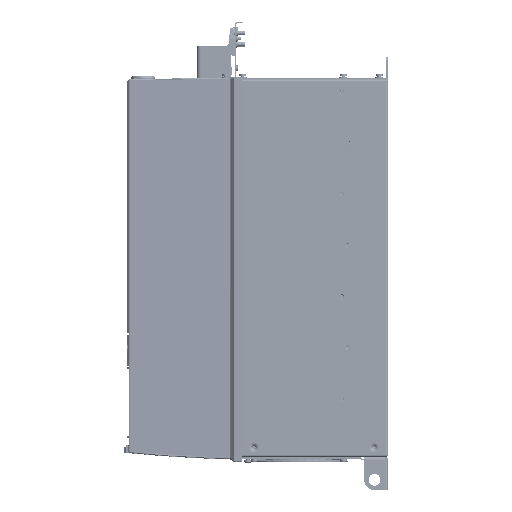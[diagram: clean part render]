
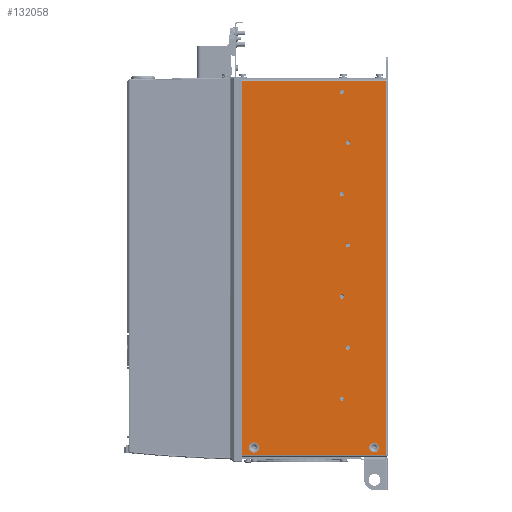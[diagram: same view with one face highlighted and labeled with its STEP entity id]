
A CAD part, left-side view. The second image highlights one B-rep face of the part: STEP entity #132058.
In plain terms, the highlighted planar face has unit normal (-1, 0, 0).
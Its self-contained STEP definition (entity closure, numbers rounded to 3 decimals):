
#23100=CARTESIAN_POINT('',(-153.5,170.,-228.));
#23101=DIRECTION('',(1.,0.,0.));
#23102=DIRECTION('',(0.,0.,-1.));
#23103=AXIS2_PLACEMENT_3D('',#23100,#23101,#23102);
#23105=CARTESIAN_POINT('',(-153.5,170.,-228.));
#23106=DIRECTION('',(1.,0.,0.));
#23107=DIRECTION('',(0.,0.,1.));
#23108=AXIS2_PLACEMENT_3D('',#23105,#23106,#23107);
#23110=CARTESIAN_POINT('',(-153.5,17.5,-228.));
#23111=DIRECTION('',(1.,0.,0.));
#23112=DIRECTION('',(0.,0.,-1.));
#23113=AXIS2_PLACEMENT_3D('',#23110,#23111,#23112);
#23115=CARTESIAN_POINT('',(-153.5,17.5,-228.));
#23116=DIRECTION('',(1.,0.,0.));
#23117=DIRECTION('',(0.,0.,1.));
#23118=AXIS2_PLACEMENT_3D('',#23115,#23116,#23117);
#23120=DIRECTION('',(0.,0.,-1.));
#23121=VECTOR('',#23120,475.);
#23122=CARTESIAN_POINT('',(-153.5,2.5,237.5));
#23123=LINE('',#23122,#23121);
#23124=DIRECTION('',(0.,1.,0.));
#23125=VECTOR('',#23124,187.5);
#23126=CARTESIAN_POINT('',(-153.5,2.5,-237.5));
#23127=LINE('',#23126,#23125);
#23128=DIRECTION('',(0.,0.,-1.));
#23129=VECTOR('',#23128,475.);
#23130=CARTESIAN_POINT('',(-153.5,190.,237.5));
#23131=LINE('',#23130,#23129);
#23132=DIRECTION('',(0.,-1.,0.));
#23133=VECTOR('',#23132,187.5);
#23134=CARTESIAN_POINT('',(-153.5,190.,237.5));
#23135=LINE('',#23134,#23133);
#23136=CARTESIAN_POINT('',(-153.5,58.5,224.));
#23137=DIRECTION('',(1.,0.,0.));
#23138=DIRECTION('',(0.,0.,-1.));
#23139=AXIS2_PLACEMENT_3D('',#23136,#23137,#23138);
#23141=CARTESIAN_POINT('',(-153.5,58.5,224.));
#23142=DIRECTION('',(1.,0.,0.));
#23143=DIRECTION('',(0.,0.,1.));
#23144=AXIS2_PLACEMENT_3D('',#23141,#23142,#23143);
#23146=CARTESIAN_POINT('',(-153.5,50.5,159.));
#23147=DIRECTION('',(1.,0.,0.));
#23148=DIRECTION('',(0.,0.,-1.));
#23149=AXIS2_PLACEMENT_3D('',#23146,#23147,#23148);
#23151=CARTESIAN_POINT('',(-153.5,50.5,159.));
#23152=DIRECTION('',(1.,0.,0.));
#23153=DIRECTION('',(0.,0.,1.));
#23154=AXIS2_PLACEMENT_3D('',#23151,#23152,#23153);
#23156=CARTESIAN_POINT('',(-153.5,58.5,94.));
#23157=DIRECTION('',(1.,0.,0.));
#23158=DIRECTION('',(0.,0.,-1.));
#23159=AXIS2_PLACEMENT_3D('',#23156,#23157,#23158);
#23161=CARTESIAN_POINT('',(-153.5,58.5,94.));
#23162=DIRECTION('',(1.,0.,0.));
#23163=DIRECTION('',(0.,0.,1.));
#23164=AXIS2_PLACEMENT_3D('',#23161,#23162,#23163);
#23166=CARTESIAN_POINT('',(-153.5,50.5,29.));
#23167=DIRECTION('',(1.,0.,0.));
#23168=DIRECTION('',(0.,0.,-1.));
#23169=AXIS2_PLACEMENT_3D('',#23166,#23167,#23168);
#23171=CARTESIAN_POINT('',(-153.5,50.5,29.));
#23172=DIRECTION('',(1.,0.,0.));
#23173=DIRECTION('',(0.,0.,1.));
#23174=AXIS2_PLACEMENT_3D('',#23171,#23172,#23173);
#23176=CARTESIAN_POINT('',(-153.5,58.5,-36.));
#23177=DIRECTION('',(1.,0.,0.));
#23178=DIRECTION('',(0.,0.,-1.));
#23179=AXIS2_PLACEMENT_3D('',#23176,#23177,#23178);
#23181=CARTESIAN_POINT('',(-153.5,58.5,-36.));
#23182=DIRECTION('',(1.,0.,0.));
#23183=DIRECTION('',(0.,0.,1.));
#23184=AXIS2_PLACEMENT_3D('',#23181,#23182,#23183);
#23186=CARTESIAN_POINT('',(-153.5,50.5,-101.));
#23187=DIRECTION('',(1.,0.,0.));
#23188=DIRECTION('',(0.,0.,-1.));
#23189=AXIS2_PLACEMENT_3D('',#23186,#23187,#23188);
#23191=CARTESIAN_POINT('',(-153.5,50.5,-101.));
#23192=DIRECTION('',(1.,0.,0.));
#23193=DIRECTION('',(0.,0.,1.));
#23194=AXIS2_PLACEMENT_3D('',#23191,#23192,#23193);
#23196=CARTESIAN_POINT('',(-153.5,58.5,-166.));
#23197=DIRECTION('',(1.,0.,0.));
#23198=DIRECTION('',(0.,0.,-1.));
#23199=AXIS2_PLACEMENT_3D('',#23196,#23197,#23198);
#23201=CARTESIAN_POINT('',(-153.5,58.5,-166.));
#23202=DIRECTION('',(1.,0.,0.));
#23203=DIRECTION('',(0.,0.,1.));
#23204=AXIS2_PLACEMENT_3D('',#23201,#23202,#23203);
#87299=CARTESIAN_POINT('',(-153.5,170.,-234.463));
#87300=CARTESIAN_POINT('',(-153.5,170.,-221.537));
#87301=VERTEX_POINT('',#87299);
#87302=VERTEX_POINT('',#87300);
#87311=CARTESIAN_POINT('',(-153.5,17.5,-233.984));
#87312=CARTESIAN_POINT('',(-153.5,17.5,-222.016));
#87313=VERTEX_POINT('',#87311);
#87314=VERTEX_POINT('',#87312);
#87359=CARTESIAN_POINT('',(-153.5,190.,237.5));
#87360=CARTESIAN_POINT('',(-153.5,190.,-237.5));
#87361=VERTEX_POINT('',#87359);
#87362=VERTEX_POINT('',#87360);
#91895=CARTESIAN_POINT('',(-153.5,58.5,221.2));
#91896=CARTESIAN_POINT('',(-153.5,58.5,226.8));
#91897=VERTEX_POINT('',#91895);
#91898=VERTEX_POINT('',#91896);
#91903=CARTESIAN_POINT('',(-153.5,50.5,156.2));
#91904=CARTESIAN_POINT('',(-153.5,50.5,161.8));
#91905=VERTEX_POINT('',#91903);
#91906=VERTEX_POINT('',#91904);
#91911=CARTESIAN_POINT('',(-153.5,58.5,91.2));
#91912=CARTESIAN_POINT('',(-153.5,58.5,96.8));
#91913=VERTEX_POINT('',#91911);
#91914=VERTEX_POINT('',#91912);
#91919=CARTESIAN_POINT('',(-153.5,50.5,26.2));
#91920=CARTESIAN_POINT('',(-153.5,50.5,31.8));
#91921=VERTEX_POINT('',#91919);
#91922=VERTEX_POINT('',#91920);
#91927=CARTESIAN_POINT('',(-153.5,58.5,-38.8));
#91928=CARTESIAN_POINT('',(-153.5,58.5,-33.2));
#91929=VERTEX_POINT('',#91927);
#91930=VERTEX_POINT('',#91928);
#91935=CARTESIAN_POINT('',(-153.5,50.5,-103.8));
#91936=CARTESIAN_POINT('',(-153.5,50.5,-98.2));
#91937=VERTEX_POINT('',#91935);
#91938=VERTEX_POINT('',#91936);
#91943=CARTESIAN_POINT('',(-153.5,58.5,-168.8));
#91944=CARTESIAN_POINT('',(-153.5,58.5,-163.2));
#91945=VERTEX_POINT('',#91943);
#91946=VERTEX_POINT('',#91944);
#94043=CARTESIAN_POINT('',(-153.5,2.5,-237.5));
#94045=VERTEX_POINT('',#94043);
#94061=CARTESIAN_POINT('',(-153.5,2.5,237.5));
#94062=VERTEX_POINT('',#94061);
#131990=CARTESIAN_POINT('',(-153.5,192.5,-240.));
#131991=DIRECTION('',(-1.,0.,0.));
#131992=DIRECTION('',(0.,-1.,0.));
#131993=AXIS2_PLACEMENT_3D('',#131990,#131991,#131992);
#131994=PLANE('',#131993);
#131996=ORIENTED_EDGE('',*,*,#131995,.T.);
#131998=ORIENTED_EDGE('',*,*,#131997,.T.);
#132000=ORIENTED_EDGE('',*,*,#131999,.F.);
#132001=ORIENTED_EDGE('',*,*,#131983,.T.);
#132002=EDGE_LOOP('',(#131996,#131998,#132000,#132001));
#132003=FACE_OUTER_BOUND('',#132002,.F.);
#132005=ORIENTED_EDGE('',*,*,#132004,.F.);
#132007=ORIENTED_EDGE('',*,*,#132006,.F.);
#132008=EDGE_LOOP('',(#132005,#132007));
#132009=FACE_BOUND('',#132008,.F.);
#132011=ORIENTED_EDGE('',*,*,#132010,.F.);
#132013=ORIENTED_EDGE('',*,*,#132012,.F.);
#132014=EDGE_LOOP('',(#132011,#132013));
#132015=FACE_BOUND('',#132014,.F.);
#132017=ORIENTED_EDGE('',*,*,#132016,.F.);
#132019=ORIENTED_EDGE('',*,*,#132018,.F.);
#132020=EDGE_LOOP('',(#132017,#132019));
#132021=FACE_BOUND('',#132020,.F.);
#132023=ORIENTED_EDGE('',*,*,#132022,.F.);
#132025=ORIENTED_EDGE('',*,*,#132024,.F.);
#132026=EDGE_LOOP('',(#132023,#132025));
#132027=FACE_BOUND('',#132026,.F.);
#132029=ORIENTED_EDGE('',*,*,#132028,.F.);
#132031=ORIENTED_EDGE('',*,*,#132030,.F.);
#132032=EDGE_LOOP('',(#132029,#132031));
#132033=FACE_BOUND('',#132032,.F.);
#132035=ORIENTED_EDGE('',*,*,#132034,.F.);
#132037=ORIENTED_EDGE('',*,*,#132036,.F.);
#132038=EDGE_LOOP('',(#132035,#132037));
#132039=FACE_BOUND('',#132038,.F.);
#132041=ORIENTED_EDGE('',*,*,#132040,.F.);
#132043=ORIENTED_EDGE('',*,*,#132042,.F.);
#132044=EDGE_LOOP('',(#132041,#132043));
#132045=FACE_BOUND('',#132044,.F.);
#132047=ORIENTED_EDGE('',*,*,#132046,.F.);
#132049=ORIENTED_EDGE('',*,*,#132048,.F.);
#132050=EDGE_LOOP('',(#132047,#132049));
#132051=FACE_BOUND('',#132050,.F.);
#132053=ORIENTED_EDGE('',*,*,#132052,.F.);
#132055=ORIENTED_EDGE('',*,*,#132054,.F.);
#132056=EDGE_LOOP('',(#132053,#132055));
#132057=FACE_BOUND('',#132056,.F.);
#23104=CIRCLE('',#23103,6.463);
#23109=CIRCLE('',#23108,6.463);
#23114=CIRCLE('',#23113,5.984);
#23119=CIRCLE('',#23118,5.984);
#23140=CIRCLE('',#23139,2.8);
#23145=CIRCLE('',#23144,2.8);
#23150=CIRCLE('',#23149,2.8);
#23155=CIRCLE('',#23154,2.8);
#23160=CIRCLE('',#23159,2.8);
#23165=CIRCLE('',#23164,2.8);
#23170=CIRCLE('',#23169,2.8);
#23175=CIRCLE('',#23174,2.8);
#23180=CIRCLE('',#23179,2.8);
#23185=CIRCLE('',#23184,2.8);
#23190=CIRCLE('',#23189,2.8);
#23195=CIRCLE('',#23194,2.8);
#23200=CIRCLE('',#23199,2.8);
#23205=CIRCLE('',#23204,2.8);
#131983=EDGE_CURVE('',#87361,#94062,#23135,.T.);
#131995=EDGE_CURVE('',#94062,#94045,#23123,.T.);
#131997=EDGE_CURVE('',#94045,#87362,#23127,.T.);
#131999=EDGE_CURVE('',#87361,#87362,#23131,.T.);
#132004=EDGE_CURVE('',#87313,#87314,#23114,.T.);
#132006=EDGE_CURVE('',#87314,#87313,#23119,.T.);
#132010=EDGE_CURVE('',#87301,#87302,#23104,.T.);
#132012=EDGE_CURVE('',#87302,#87301,#23109,.T.);
#132016=EDGE_CURVE('',#91897,#91898,#23140,.T.);
#132018=EDGE_CURVE('',#91898,#91897,#23145,.T.);
#132022=EDGE_CURVE('',#91905,#91906,#23150,.T.);
#132024=EDGE_CURVE('',#91906,#91905,#23155,.T.);
#132028=EDGE_CURVE('',#91913,#91914,#23160,.T.);
#132030=EDGE_CURVE('',#91914,#91913,#23165,.T.);
#132034=EDGE_CURVE('',#91921,#91922,#23170,.T.);
#132036=EDGE_CURVE('',#91922,#91921,#23175,.T.);
#132040=EDGE_CURVE('',#91929,#91930,#23180,.T.);
#132042=EDGE_CURVE('',#91930,#91929,#23185,.T.);
#132046=EDGE_CURVE('',#91937,#91938,#23190,.T.);
#132048=EDGE_CURVE('',#91938,#91937,#23195,.T.);
#132052=EDGE_CURVE('',#91945,#91946,#23200,.T.);
#132054=EDGE_CURVE('',#91946,#91945,#23205,.T.);
#132058=ADVANCED_FACE('',(#132003,#132009,#132015,#132021,#132027,#132033,
#132039,#132045,#132051,#132057),#131994,.T.);
